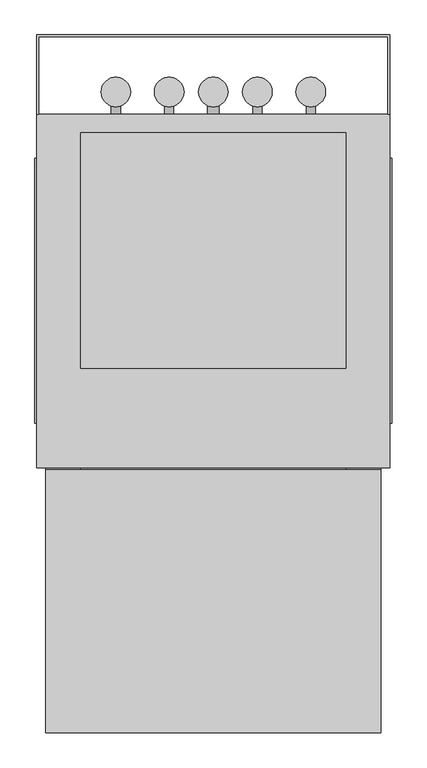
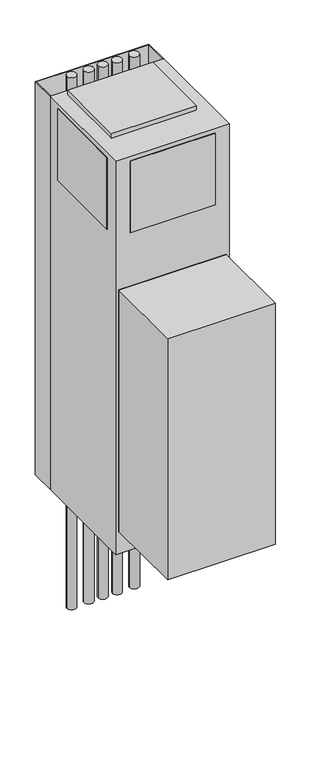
"""IFC4 building model written with IfcOpenShell, lengths in millimetres: proxy geometry, Exposed_Modular_Fan_Coil_Unit_-_42SHA_-_CARRIER_-_4-Pipe_-_WithRisers_2022 : Size 10 - 277v/60Hz/1Ph - 4/1 Coil."""

from ifc_helpers import new_model, si_unit, point, frame, frame_2d, origin, origin_with_axes, place, context, project, spatial, polyline, circle_curve, trimmed, segment, composite_curve, outline, extrude, source, transform, mapped, element, save


def mechanical_equipment_072f10d4(model_context):
    return source(origin(), model_context, "Body", "SweptSolid", [
        extrude(outline(composite_curve([segment(trimmed(circle_curve(frame_2d((288.925, 282.575)), 25.4), [point((314.325, 282.575))], [point((263.525, 282.575))], False, "CARTESIAN"), True, "CONTINUOUS"), segment(trimmed(circle_curve(frame_2d((288.925, 282.575)), 25.4), [point((263.525, 282.575))], [point((314.325, 282.575))], False, "CARTESIAN"), True, "CONTINUOUS")], self_intersect=False)), frame((0.0, 0.0, -736.6), z_axis=(0.0, 0.0, 1.0), x_axis=(1.0, 0.0, 0.0)), (0.0, 0.0, 1.0), 3022.6),
        extrude(outline(composite_curve([segment(trimmed(circle_curve(frame_2d((381.0, 282.575)), 25.4), [point((406.4, 282.575))], [point((355.6, 282.575))], False, "CARTESIAN"), True, "CONTINUOUS"), segment(trimmed(circle_curve(frame_2d((381.0, 282.575)), 25.4), [point((355.6, 282.575))], [point((406.4, 282.575))], False, "CARTESIAN"), True, "CONTINUOUS")], self_intersect=False)), frame((0.0, 0.0, -736.6), z_axis=(0.0, 0.0, 1.0), x_axis=(1.0, 0.0, 0.0)), (0.0, 0.0, 1.0), 3022.6),
        extrude(outline(composite_curve([segment(trimmed(circle_curve(frame_2d((457.2, 282.575)), 25.4), [point((482.6, 282.575))], [point((431.8, 282.575))], False, "CARTESIAN"), True, "CONTINUOUS"), segment(trimmed(circle_curve(frame_2d((457.2, 282.575)), 25.4), [point((431.8, 282.575))], [point((482.6, 282.575))], False, "CARTESIAN"), True, "CONTINUOUS")], self_intersect=False)), frame((0.0, 0.0, -736.6), z_axis=(0.0, 0.0, 1.0), x_axis=(1.0, 0.0, 0.0)), (0.0, 0.0, 1.0), 3022.6),
        extrude(outline(composite_curve([segment(trimmed(circle_curve(frame_2d((533.4, 282.575)), 25.4), [point((558.8, 282.575))], [point((508.0, 282.575))], False, "CARTESIAN"), True, "CONTINUOUS"), segment(trimmed(circle_curve(frame_2d((533.4, 282.575)), 25.4), [point((508.0, 282.575))], [point((558.8, 282.575))], False, "CARTESIAN"), True, "CONTINUOUS")], self_intersect=False)), frame((0.0, 0.0, -736.6), z_axis=(0.0, 0.0, 1.0), x_axis=(1.0, 0.0, 0.0)), (0.0, 0.0, 1.0), 3022.6),
        extrude(outline(composite_curve([segment(trimmed(circle_curve(frame_2d((625.475, 282.575)), 25.4), [point((650.875, 282.575))], [point((600.075, 282.575))], False, "CARTESIAN"), True, "CONTINUOUS"), segment(trimmed(circle_curve(frame_2d((625.475, 282.575)), 25.4), [point((600.075, 282.575))], [point((650.875, 282.575))], False, "CARTESIAN"), True, "CONTINUOUS")], self_intersect=False)), frame((0.0, 0.0, -736.6), z_axis=(0.0, 0.0, 1.0), x_axis=(1.0, 0.0, 0.0)), (0.0, 0.0, 1.0), 3022.6),
        extrude(outline(polyline([(746.125, -368.3), (746.125, -822.325), (168.275, -822.325), (168.275, -368.3), (746.125, -368.3)])), frame((0.0, 0.0, 127.0), z_axis=(0.0, 0.0, 1.0), x_axis=(1.0, 0.0, 0.0)), (0.0, 0.0, 1.0), 1371.6),
        extrude(outline(polyline([(152.4, 381.0), (762.0, 381.0), (762.0, 244.475), (758.825, 244.475), (758.825, 377.825), (155.575, 377.825), (155.575, 244.475), (152.4, 244.475), (152.4, 381.0)])), origin_with_axes(), (0.0, 0.0, 1.0), 2235.2),
        extrude(outline(composite_curve([segment(trimmed(circle_curve(frame_2d((990.6, 533.4)), 7.9375), [point((990.6, 541.3375))], [point((990.6, 525.4625))], False, "CARTESIAN"), True, "CONTINUOUS"), segment(trimmed(circle_curve(frame_2d((990.6, 533.4)), 7.9375), [point((990.6, 525.4625))], [point((990.6, 541.3375))], False, "CARTESIAN"), True, "CONTINUOUS")], self_intersect=False)), frame((0.0, 244.475, 0.0), z_axis=(0.0, 1.0, 0.0), x_axis=(0.0, 0.0, 1.0)), (0.0, 0.0, 1.0), 25.4),
        extrude(outline(composite_curve([segment(trimmed(circle_curve(frame_2d((990.6, 381.0)), 7.9375), [point((990.6, 388.9375))], [point((990.6, 373.0625))], False, "CARTESIAN"), True, "CONTINUOUS"), segment(trimmed(circle_curve(frame_2d((990.6, 381.0)), 7.9375), [point((990.6, 373.0625))], [point((990.6, 388.9375))], False, "CARTESIAN"), True, "CONTINUOUS")], self_intersect=False)), frame((0.0, 244.475, 0.0), z_axis=(0.0, 1.0, 0.0), x_axis=(0.0, 0.0, 1.0)), (0.0, 0.0, 1.0), 25.4),
        extrude(outline(composite_curve([segment(trimmed(circle_curve(frame_2d((76.2, 457.2)), 9.525), [point((76.2, 466.725))], [point((76.2, 447.675))], False, "CARTESIAN"), True, "CONTINUOUS"), segment(trimmed(circle_curve(frame_2d((76.2, 457.2)), 9.525), [point((76.2, 447.675))], [point((76.2, 466.725))], False, "CARTESIAN"), True, "CONTINUOUS")], self_intersect=False)), frame((0.0, 244.475, 0.0), z_axis=(0.0, 1.0, 0.0), x_axis=(0.0, 0.0, 1.0)), (0.0, 0.0, 1.0), 25.4),
        extrude(outline(composite_curve([segment(trimmed(circle_curve(frame_2d((990.6, 625.475)), 7.9375), [point((990.6, 633.4125))], [point((990.6, 617.5375))], False, "CARTESIAN"), True, "CONTINUOUS"), segment(trimmed(circle_curve(frame_2d((990.6, 625.475)), 7.9375), [point((990.6, 617.5375))], [point((990.6, 633.4125))], False, "CARTESIAN"), True, "CONTINUOUS")], self_intersect=False)), frame((0.0, 244.475, 0.0), z_axis=(0.0, 1.0, 0.0), x_axis=(0.0, 0.0, 1.0)), (0.0, 0.0, 1.0), 25.4),
        extrude(outline(composite_curve([segment(trimmed(circle_curve(frame_2d((990.6, 288.925)), 7.9375), [point((990.6, 296.8625))], [point((990.6, 280.9875))], False, "CARTESIAN"), True, "CONTINUOUS"), segment(trimmed(circle_curve(frame_2d((990.6, 288.925)), 7.9375), [point((990.6, 280.9875))], [point((990.6, 296.8625))], False, "CARTESIAN"), True, "CONTINUOUS")], self_intersect=False)), frame((0.0, 244.475, 0.0), z_axis=(0.0, 1.0, 0.0), x_axis=(0.0, 0.0, 1.0)), (0.0, 0.0, 1.0), 25.4),
        extrude(outline(polyline([(746.125, -368.3), (168.275, -368.3), (168.275, -365.125), (746.125, -365.125), (746.125, -368.3)])), frame((0.0, 0.0, 127.0), z_axis=(0.0, 0.0, 1.0), x_axis=(1.0, 0.0, 0.0)), (0.0, 0.0, 1.0), 1371.6),
        extrude(outline(polyline([(765.175, 168.275), (765.175, -288.925), (762.0, -288.925), (762.0, 168.275), (765.175, 168.275)])), frame((0.0, 0.0, 1803.4), z_axis=(0.0, 0.0, 1.0), x_axis=(1.0, 0.0, 0.0)), (0.0, 0.0, 1.0), 406.4),
        extrude(outline(polyline([(149.225, -288.925), (149.225, 168.275), (152.4, 168.275), (152.4, -288.925), (149.225, -288.925)])), frame((0.0, 0.0, 1803.4), z_axis=(0.0, 0.0, 1.0), x_axis=(1.0, 0.0, 0.0)), (0.0, 0.0, 1.0), 406.4),
        extrude(outline(polyline([(685.8, -368.3), (228.6, -368.3), (228.6, -365.125), (685.8, -365.125), (685.8, -368.3)])), frame((0.0, 0.0, 1803.4), z_axis=(0.0, 0.0, 1.0), x_axis=(1.0, 0.0, 0.0)), (0.0, 0.0, 1.0), 406.4),
        extrude(outline(polyline([(685.8, 212.725), (685.8, -193.675), (228.6, -193.675), (228.6, 212.725), (685.8, 212.725)])), frame((0.0, 0.0, 2235.2), z_axis=(0.0, 0.0, 1.0), x_axis=(1.0, 0.0, 0.0)), (0.0, 0.0, 1.0), 25.4),
        extrude(outline(polyline([(762.0, 244.475), (762.0, -365.125), (152.4, -365.125), (152.4, 244.475), (762.0, 244.475)])), origin_with_axes(), (0.0, 0.0, 1.0), 2235.2),
    ])


if __name__ == "__main__":
    model = new_model("IFC4")
    model_context = context("Model", 3, world=origin())
    ifc_project = project(units=[si_unit("LENGTHUNIT", "METRE", prefix="MILLI")], contexts=[model_context])
    site = spatial("IfcSite", under=ifc_project)
    building = spatial("IfcBuilding", under=site)
    placement = place(None, origin())
    mechanical_equipment_shape = mechanical_equipment_072f10d4(model_context)
    element("IfcBuildingElementProxy", 1, Name="Exposed_Modular_Fan_Coil_Unit_-_42SHA_-_CARRIER_-_4-Pipe_-_WithRisers_2022 : Size 10 - 277v/60Hz/1Ph - 4/1 Coil", ObjectType="Exposed_Modular_Fan_Coil_Unit_-_42SHA_-_CARRIER_-_4-Pipe_-_WithRisers_2022 : Size 10 - 277v/60Hz/1Ph - 4/1 Coil", at=placement, inside=building, context=model_context, shape_type="MappedRepresentation", body=[
        mapped(mechanical_equipment_shape, transform((0.0, 0.0, 0.0), x_axis=(1.0, 0.0, 0.0), y_axis=(0.0, 1.0, 0.0), z_axis=(0.0, 0.0, 1.0))),
    ])
    save(model, "model.ifc")
